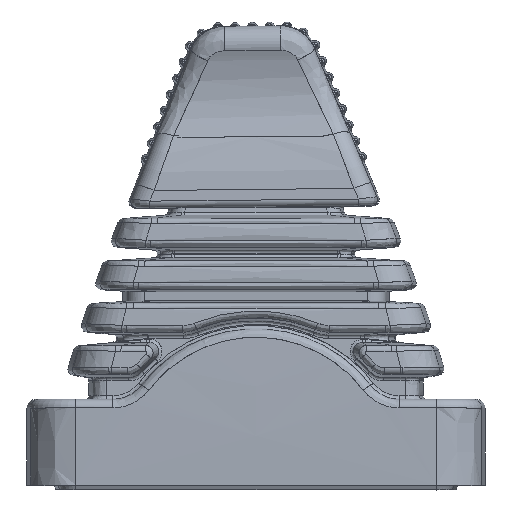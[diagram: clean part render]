
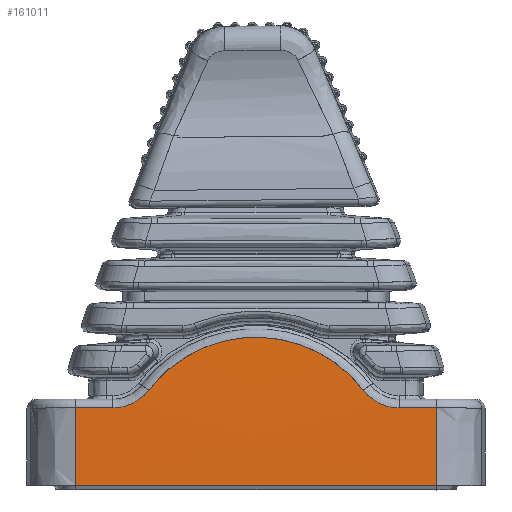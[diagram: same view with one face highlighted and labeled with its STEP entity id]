
A CAD part, top view. The second image highlights one B-rep face of the part: STEP entity #161011.
In plain terms, the highlighted free-form (B-spline) face has degree [3, 3] with [4, 5] control points.
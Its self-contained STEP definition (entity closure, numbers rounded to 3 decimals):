
#161011 = ADVANCED_FACE('',(#161012),#161110,.T.);
#161012 = FACE_BOUND('',#161013,.T.);
#161013 = EDGE_LOOP('',(#161014,#161027,#161036,#161049,#161069,#161082,
    #161091,#161102));
#161014 = ORIENTED_EDGE('',*,*,#161015,.F.);
#161015 = EDGE_CURVE('',#161016,#161018,#161020,.T.);
#161016 = VERTEX_POINT('',#161017);
#161017 = CARTESIAN_POINT('',(-19.985,7.745,
    16.342));
#161018 = VERTEX_POINT('',#161019);
#161019 = CARTESIAN_POINT('',(-19.954,-0.803,
    16.498));
#161020 = B_SPLINE_CURVE_WITH_KNOTS('',3,(#161021,#161022,#161023,
    #161024,#161025,#161026),.UNSPECIFIED.,.F.,.F.,(4,1,1,4),(0.,
    0.333,0.667,1.),.UNSPECIFIED.);
#161021 = CARTESIAN_POINT('',(-19.985,7.745,
    16.342));
#161022 = CARTESIAN_POINT('',(-19.977,6.798,
    16.38));
#161023 = CARTESIAN_POINT('',(-19.965,4.902,16.444)
  );
#161024 = CARTESIAN_POINT('',(-19.954,2.055,
    16.496));
#161025 = CARTESIAN_POINT('',(-19.953,0.151,
    16.502));
#161026 = CARTESIAN_POINT('',(-19.954,-0.803,
    16.498));
#161027 = ORIENTED_EDGE('',*,*,#161028,.F.);
#161028 = EDGE_CURVE('',#161029,#161016,#161031,.T.);
#161029 = VERTEX_POINT('',#161030);
#161030 = CARTESIAN_POINT('',(-15.861,7.735,
    16.356));
#161031 = B_SPLINE_CURVE_WITH_KNOTS('',3,(#161032,#161033,#161034,
    #161035),.UNSPECIFIED.,.F.,.F.,(4,4),(0.,1.),
  .PIECEWISE_BEZIER_KNOTS.);
#161032 = CARTESIAN_POINT('',(-15.861,7.735,
    16.356));
#161033 = CARTESIAN_POINT('',(-17.236,7.738,
    16.352));
#161034 = CARTESIAN_POINT('',(-18.611,7.741,
    16.347));
#161035 = CARTESIAN_POINT('',(-19.985,7.745,
    16.342));
#161036 = ORIENTED_EDGE('',*,*,#161037,.F.);
#161037 = EDGE_CURVE('',#161038,#161029,#161040,.T.);
#161038 = VERTEX_POINT('',#161039);
#161039 = CARTESIAN_POINT('',(-11.89,9.693,
    16.29));
#161040 = B_SPLINE_CURVE_WITH_KNOTS('',3,(#161041,#161042,#161043,
    #161044,#161045,#161046,#161047,#161048),.UNSPECIFIED.,.F.,.F.,(4,1,
    1,1,1,4),(0.,0.2,0.4,0.6,0.8,1.),.QUASI_UNIFORM_KNOTS.);
#161041 = CARTESIAN_POINT('',(-11.89,9.693,
    16.29));
#161042 = CARTESIAN_POINT('',(-12.075,9.452,
    16.3));
#161043 = CARTESIAN_POINT('',(-12.483,9.008,
    16.317));
#161044 = CARTESIAN_POINT('',(-13.223,8.452,
    16.337));
#161045 = CARTESIAN_POINT('',(-14.046,8.044,
    16.35));
#161046 = CARTESIAN_POINT('',(-14.936,7.792,
    16.357));
#161047 = CARTESIAN_POINT('',(-15.548,7.736,
    16.357));
#161048 = CARTESIAN_POINT('',(-15.861,7.735,
    16.356));
#161049 = ORIENTED_EDGE('',*,*,#161050,.F.);
#161050 = EDGE_CURVE('',#161051,#161038,#161053,.T.);
#161051 = VERTEX_POINT('',#161052);
#161052 = CARTESIAN_POINT('',(11.89,9.693,
    16.29));
#161053 = B_SPLINE_CURVE_WITH_KNOTS('',3,(#161054,#161055,#161056,
    #161057,#161058,#161059,#161060,#161061,#161062,#161063,#161064,
    #161065,#161066,#161067,#161068),.UNSPECIFIED.,.F.,.F.,(4,1,1,1,1,1,
    1,1,1,1,1,1,4),(0.,0.083,0.167,0.25,
    0.333,0.417,0.5,0.583,0.667,0.75
    ,0.833,0.917,1.),.UNSPECIFIED.);
#161054 = CARTESIAN_POINT('',(11.89,9.693,
    16.29));
#161055 = CARTESIAN_POINT('',(11.42,10.305,
    16.265));
#161056 = CARTESIAN_POINT('',(10.402,11.443,
    16.216));
#161057 = CARTESIAN_POINT('',(8.616,12.909,
    16.147));
#161058 = CARTESIAN_POINT('',(6.638,14.076,
    16.089));
#161059 = CARTESIAN_POINT('',(4.51,14.929,
    16.046));
#161060 = CARTESIAN_POINT('',(2.279,15.447,
    16.02));
#161061 = CARTESIAN_POINT('',(-0.003,15.62,
    16.011));
#161062 = CARTESIAN_POINT('',(-2.283,15.446,
    16.02));
#161063 = CARTESIAN_POINT('',(-4.515,14.927,
    16.046));
#161064 = CARTESIAN_POINT('',(-6.643,14.074,
    16.089));
#161065 = CARTESIAN_POINT('',(-8.617,12.908,
    16.147));
#161066 = CARTESIAN_POINT('',(-10.403,11.441,
    16.216));
#161067 = CARTESIAN_POINT('',(-11.42,10.305,
    16.265));
#161068 = CARTESIAN_POINT('',(-11.89,9.693,
    16.29));
#161069 = ORIENTED_EDGE('',*,*,#161070,.F.);
#161070 = EDGE_CURVE('',#161071,#161051,#161073,.T.);
#161071 = VERTEX_POINT('',#161072);
#161072 = CARTESIAN_POINT('',(15.861,7.735,
    16.356));
#161073 = B_SPLINE_CURVE_WITH_KNOTS('',3,(#161074,#161075,#161076,
    #161077,#161078,#161079,#161080,#161081),.UNSPECIFIED.,.F.,.F.,(4,1,
    1,1,1,4),(0.,0.2,0.4,0.6,0.8,1.),.QUASI_UNIFORM_KNOTS.);
#161074 = CARTESIAN_POINT('',(15.861,7.735,
    16.356));
#161075 = CARTESIAN_POINT('',(15.549,7.736,
    16.357));
#161076 = CARTESIAN_POINT('',(14.937,7.792,
    16.357));
#161077 = CARTESIAN_POINT('',(14.046,8.044,
    16.35));
#161078 = CARTESIAN_POINT('',(13.224,8.451,16.337
    ));
#161079 = CARTESIAN_POINT('',(12.483,9.008,
    16.317));
#161080 = CARTESIAN_POINT('',(12.075,9.451,
    16.3));
#161081 = CARTESIAN_POINT('',(11.89,9.693,
    16.29));
#161082 = ORIENTED_EDGE('',*,*,#161083,.F.);
#161083 = EDGE_CURVE('',#161084,#161071,#161086,.T.);
#161084 = VERTEX_POINT('',#161085);
#161085 = CARTESIAN_POINT('',(19.985,7.745,
    16.342));
#161086 = B_SPLINE_CURVE_WITH_KNOTS('',3,(#161087,#161088,#161089,
    #161090),.UNSPECIFIED.,.F.,.F.,(4,4),(0.,1.),
  .PIECEWISE_BEZIER_KNOTS.);
#161087 = CARTESIAN_POINT('',(19.985,7.745,
    16.342));
#161088 = CARTESIAN_POINT('',(18.611,7.741,
    16.347));
#161089 = CARTESIAN_POINT('',(17.236,7.738,
    16.352));
#161090 = CARTESIAN_POINT('',(15.861,7.735,
    16.356));
#161091 = ORIENTED_EDGE('',*,*,#161092,.F.);
#161092 = EDGE_CURVE('',#161093,#161084,#161095,.T.);
#161093 = VERTEX_POINT('',#161094);
#161094 = CARTESIAN_POINT('',(19.954,-0.803,
    16.498));
#161095 = B_SPLINE_CURVE_WITH_KNOTS('',3,(#161096,#161097,#161098,
    #161099,#161100,#161101),.UNSPECIFIED.,.F.,.F.,(4,1,1,4),(0.,
    0.333,0.667,1.),.UNSPECIFIED.);
#161096 = CARTESIAN_POINT('',(19.954,-0.803,
    16.498));
#161097 = CARTESIAN_POINT('',(19.953,0.151,
    16.502));
#161098 = CARTESIAN_POINT('',(19.954,2.055,
    16.496));
#161099 = CARTESIAN_POINT('',(19.965,4.902,16.444)
  );
#161100 = CARTESIAN_POINT('',(19.977,6.798,
    16.38));
#161101 = CARTESIAN_POINT('',(19.985,7.745,
    16.342));
#161102 = ORIENTED_EDGE('',*,*,#161103,.F.);
#161103 = EDGE_CURVE('',#161018,#161093,#161104,.T.);
#161104 = B_SPLINE_CURVE_WITH_KNOTS('',3,(#161105,#161106,#161107,
    #161108,#161109),.UNSPECIFIED.,.F.,.F.,(4,1,4),(0.,0.5,1.
    ),.UNSPECIFIED.);
#161105 = CARTESIAN_POINT('',(-19.954,-0.803,
    16.498));
#161106 = CARTESIAN_POINT('',(-13.302,-0.8,
    16.499));
#161107 = CARTESIAN_POINT('',(0.,-0.799,
    16.499));
#161108 = CARTESIAN_POINT('',(13.302,-0.8,
    16.499));
#161109 = CARTESIAN_POINT('',(19.954,-0.803,
    16.498));
#161110 = B_SPLINE_SURFACE_WITH_KNOTS('',3,3,(
    (#161111,#161112,#161113,#161114,#161115)
    ,(#161116,#161117,#161118,#161119,#161120)
    ,(#161121,#161122,#161123,#161124,#161125)
    ,(#161126,#161127,#161128,#161129,#161130
  )),.UNSPECIFIED.,.F.,.F.,.F.,(4,4),(4,1,4),(-0.016,
    0.307),(0.107,0.5,0.893),.UNSPECIFIED.);
#161111 = CARTESIAN_POINT('',(-19.975,-0.803,
    16.498));
#161112 = CARTESIAN_POINT('',(-13.316,-0.8,
    16.499));
#161113 = CARTESIAN_POINT('',(0.,-0.799,
    16.499));
#161114 = CARTESIAN_POINT('',(13.316,-0.8,
    16.499));
#161115 = CARTESIAN_POINT('',(19.975,-0.803,
    16.498));
#161116 = CARTESIAN_POINT('',(-19.981,4.682,
    16.521));
#161117 = CARTESIAN_POINT('',(-13.326,4.668,
    16.518));
#161118 = CARTESIAN_POINT('',(0.,4.659,
    16.514));
#161119 = CARTESIAN_POINT('',(13.326,4.668,
    16.518));
#161120 = CARTESIAN_POINT('',(19.981,4.682,
    16.521));
#161121 = CARTESIAN_POINT('',(-19.987,10.151,
    16.307));
#161122 = CARTESIAN_POINT('',(-13.337,10.125,
    16.339));
#161123 = CARTESIAN_POINT('',(0.,10.11,
    16.371));
#161124 = CARTESIAN_POINT('',(13.337,10.125,
    16.339));
#161125 = CARTESIAN_POINT('',(19.987,10.151,
    16.307));
#161126 = CARTESIAN_POINT('',(-19.994,15.604,
    15.855));
#161127 = CARTESIAN_POINT('',(-13.348,15.572,
    15.961));
#161128 = CARTESIAN_POINT('',(0.,15.553,
    16.067));
#161129 = CARTESIAN_POINT('',(13.348,15.572,
    15.961));
#161130 = CARTESIAN_POINT('',(19.994,15.604,
    15.855));
